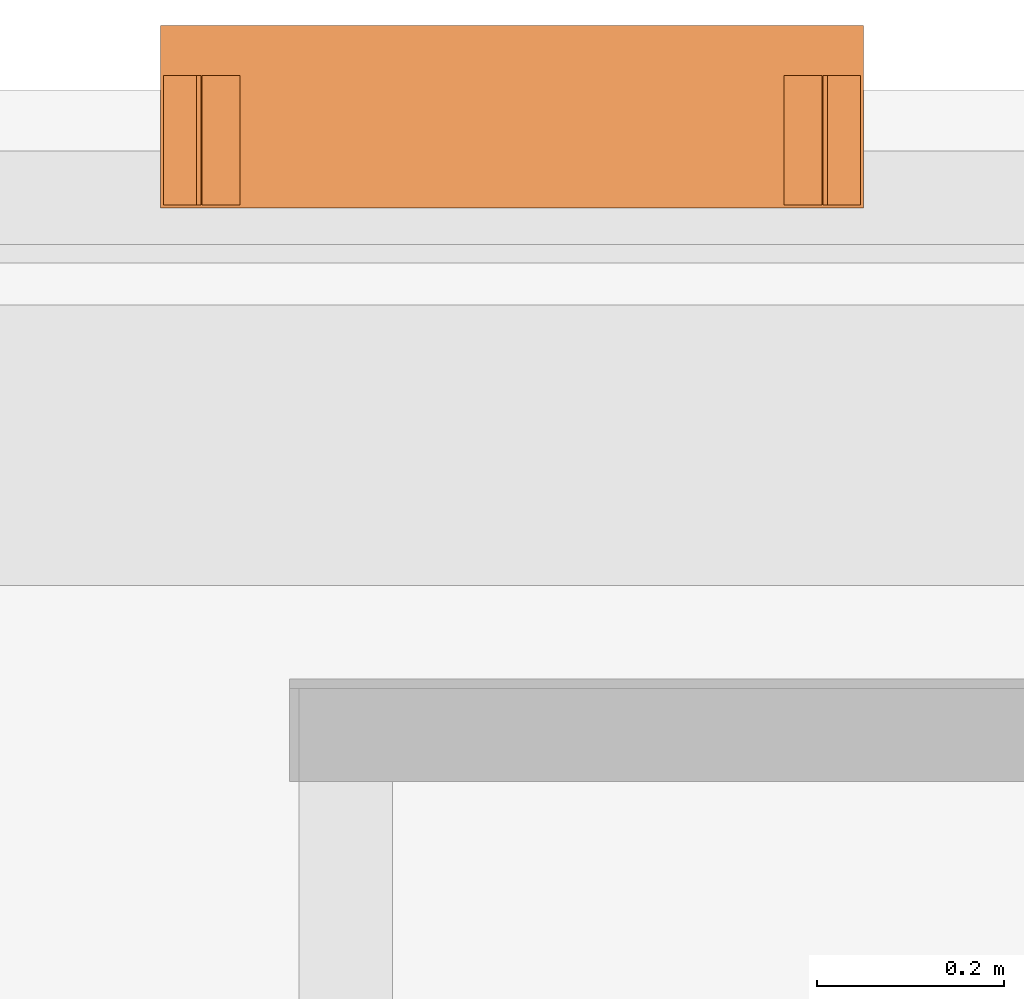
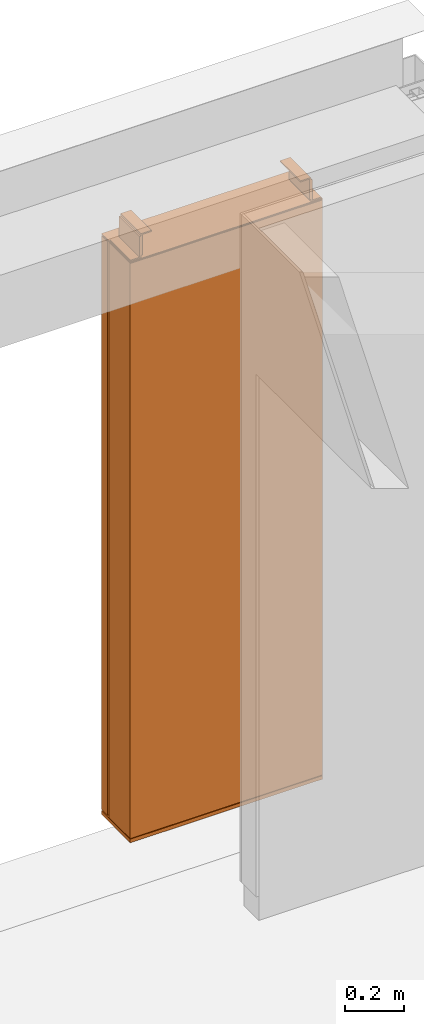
# One storey, part 37 of 37: 1 proxy.
"""IFC2X3 building model written with IfcOpenShell, lengths in millimetres."""

from ifc_helpers import new_model, entity, si_unit, converted_unit, derived_unit, direction, frame, origin, origin_with_axes, place, context, subcontext, project, spatial, faceted_brep, source, transform, mapped, material, type_object, element, save


model = new_model("IFC2X3")

# Units and contexts
model_context = context("Model", 3, precision=0.01, world=frame((0.0, 4.29681676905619e-09, 0.0)), true_north=direction((4.01073788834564e-13, 1.0)))
plan_context = context("Plan", 3, precision=0.01, world=frame((0.0, 4.29681676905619e-09, 0.0)), true_north=direction((4.01073788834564e-13, 1.0)))
body_context = subcontext(model_context, "Body", "Model", "MODEL_VIEW")
ifc_project = project(units=[converted_unit("PLANEANGLEUNIT", "DEGREE", entity("IfcPositiveLengthMeasure", 0.0174532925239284), si_unit("PLANEANGLEUNIT", "RADIAN"), dimensions=[0, 0, 0, 0, 0, 0, 0]), si_unit("AREAUNIT", "SQUARE_METRE"), si_unit("LENGTHUNIT", "METRE", prefix="MILLI"), si_unit("MASSUNIT", "GRAM", prefix="KILO"), si_unit("POWERUNIT", "WATT"), si_unit("PRESSUREUNIT", "PASCAL"), si_unit("FORCEUNIT", "NEWTON", prefix="KILO"), si_unit("ELECTRICVOLTAGEUNIT", "VOLT"), si_unit("ELECTRICCURRENTUNIT", "AMPERE"), si_unit("THERMODYNAMICTEMPERATUREUNIT", "DEGREE_CELSIUS"), si_unit("TIMEUNIT", "SECOND"), si_unit("VOLUMEUNIT", "CUBIC_METRE"), derived_unit("LINEARVELOCITYUNIT", [(si_unit("LENGTHUNIT", "METRE"), 1), (si_unit("TIMEUNIT", "SECOND"), -1)]), derived_unit("VOLUMETRICFLOWRATEUNIT", [(si_unit("VOLUMEUNIT", "CUBIC_METRE"), 1), (si_unit("TIMEUNIT", "SECOND"), -1)]), derived_unit("THERMALTRANSMITTANCEUNIT", [(si_unit("POWERUNIT", "WATT"), 1), (si_unit("THERMODYNAMICTEMPERATUREUNIT", "KELVIN"), -1), (si_unit("AREAUNIT", "SQUARE_METRE"), -1)]), derived_unit("SOUNDPRESSUREUNIT", [(si_unit("PRESSUREUNIT", "PASCAL"), 1)])], contexts=[model_context, plan_context])

# Site, building, storey
site_placement = place(None, origin_with_axes())
site = spatial("IfcSite", under=ifc_project, at=site_placement, Name="ENGM", CompositionType="ELEMENT")
building_placement = place(site_placement, origin_with_axes())
building = spatial("IfcBuilding", under=site, at=building_placement, Name="TS", CompositionType="ELEMENT")
storey_placement = place(building_placement, frame((0.0, 0.0, 210900.0), z_axis=(0.0, 0.0, 1.0), x_axis=(1.0, 0.0, 0.0)))
storey = spatial("IfcBuildingStorey", under=building, at=storey_placement, Name="Nivå F", CompositionType="ELEMENT", Elevation=210900.0)

# Proxy
ifc_material = material(Name="<Unnamed>")
building_element_proxy_type = type_object("IfcBuildingElementProxyType", Name="A275 - Pylon - venstrehengslet:Pylon med topp brakett", PredefinedType="NOTDEFINED", material=ifc_material)
shared_shape = source(origin(), body_context, "Body", "Brep", [
    faceted_brep([(373.0, 53.5000000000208, 2405.0), (337.634540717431, 53.5000000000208, 2405.0), (337.634540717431, 53.5000000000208, 2490.0), (332.634540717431, 53.5000000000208, 2490.0), (332.634540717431, 53.5000000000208, 2400.0), (373.0, 53.5000000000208, 2400.0), (373.0, 192.0, 2400.0), (373.0, 192.0, 2405.0), (332.634540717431, 192.0, 2400.0), (332.634540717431, 192.0, 2490.0), (337.634540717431, 192.0, 2490.0), (337.634540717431, 192.0, 2405.0)], [[[0, 1, 2, 3, 4, 5]], [[0, 5, 6, 7]], [[5, 4, 8, 6]], [[4, 3, 9, 8]], [[3, 2, 10, 9]], [[2, 1, 11, 10]], [[1, 0, 7, 11]], [[7, 6, 8, 9, 10, 11]]]),
    faceted_brep([(291.26908143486, 192.0, 2495.0), (291.26908143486, 192.0, 2500.0), (331.634540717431, 192.0, 2500.0), (331.634540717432, 192.0, 2410.0), (326.634540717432, 192.0, 2410.0), (326.634540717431, 192.0, 2495.0), (291.26908143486, 53.5000000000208, 2495.0), (291.26908143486, 53.5000000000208, 2500.0), (331.634540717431, 53.5000000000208, 2500.0), (331.634540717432, 53.5000000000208, 2410.0), (326.634540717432, 53.5000000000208, 2410.0), (326.634540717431, 53.5000000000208, 2495.0)], [[[0, 1, 2, 3, 4, 5]], [[6, 7, 1, 0]], [[7, 8, 2, 1]], [[8, 9, 3, 2]], [[9, 10, 4, 3]], [[10, 11, 5, 4]], [[11, 6, 0, 5]], [[6, 11, 10, 9, 8, 7]]]),
    faceted_brep([(-291.26908143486, 53.5000000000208, 2495.0), (-291.26908143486, 53.5000000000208, 2500.0), (-331.634540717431, 53.5000000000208, 2500.0), (-331.634540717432, 53.5000000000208, 2410.0), (-326.634540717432, 53.5000000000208, 2410.0), (-326.634540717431, 53.5000000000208, 2495.0), (-291.26908143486, 192.0, 2495.0), (-291.26908143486, 192.0, 2500.0), (-331.634540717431, 192.0, 2500.0), (-331.634540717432, 192.0, 2410.0), (-326.634540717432, 192.0, 2410.0), (-326.634540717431, 192.0, 2495.0)], [[[0, 1, 2, 3, 4, 5]], [[1, 0, 6, 7]], [[2, 1, 7, 8]], [[3, 2, 8, 9]], [[4, 3, 9, 10]], [[5, 4, 10, 11]], [[0, 5, 11, 6]], [[6, 11, 10, 9, 8, 7]]]),
    faceted_brep([(-373.0, 192.0, 2405.0), (-337.634540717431, 192.0, 2405.0), (-337.634540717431, 192.0, 2490.0), (-332.634540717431, 192.0, 2490.0), (-332.634540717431, 192.0, 2400.0), (-373.0, 192.0, 2400.0), (-373.0, 53.5000000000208, 2400.0), (-373.0, 53.5000000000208, 2405.0), (-332.634540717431, 53.5000000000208, 2400.0), (-332.634540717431, 53.5000000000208, 2490.0), (-337.634540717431, 53.5000000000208, 2490.0), (-337.634540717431, 53.5000000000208, 2405.0)], [[[0, 1, 2, 3, 4, 5]], [[6, 7, 0, 5]], [[8, 6, 5, 4]], [[9, 8, 4, 3]], [[10, 9, 3, 2]], [[11, 10, 2, 1]], [[7, 11, 1, 0]], [[7, 6, 8, 9, 10, 11]]]),
    faceted_brep([(376.0, 41.0, 2390.98999999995), (-376.0, 41.0, 2390.98999999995), (-376.0, 1.0, 2390.98999999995), (376.0, 1.0, 2390.98999999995), (373.0, 38.0, 2390.98999999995), (373.0, 4.0, 2390.98999999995), (-373.0, 4.0, 2390.98999999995), (-373.0, 38.0, 2390.98999999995), (376.0, 41.0, 180.0), (376.0, 1.0, 180.0), (-376.0, 1.0, 180.0), (-376.0, 41.0, 180.0), (373.0, 38.0, 180.0), (-373.0, 38.0, 180.0), (-373.0, 4.0, 180.0), (373.0, 4.0, 180.0), (-286.5, 1.0, 2310.98999999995), (286.500000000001, 1.0, 2310.98999999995), (286.500000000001, 1.0, 270.189999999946), (-286.5, 1.0, 270.189999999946), (286.500000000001, 3.0, 2310.98999999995), (-286.5, 3.0, 2310.98999999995), (-286.5, 3.0, 270.189999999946), (286.500000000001, 3.0, 270.189999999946)], [[[0, 1, 2, 3], [4, 5, 6, 7]], [[8, 9, 10, 11], [12, 13, 14, 15]], [[1, 0, 8, 11]], [[2, 1, 11, 10]], [[3, 2, 10, 9], [16, 17, 18, 19]], [[0, 3, 9, 8]], [[20, 21, 22, 23]], [[21, 20, 17, 16]], [[22, 21, 16, 19]], [[23, 22, 19, 18]], [[20, 23, 18, 17]], [[5, 4, 12, 15]], [[6, 5, 15, 14]], [[7, 6, 14, 13]], [[4, 7, 13, 12]]]),
    faceted_brep([(376.0, 41.0, 180.0), (-376.0, 41.0, 180.0), (-376.0, 0.0, 180.0), (376.0, 0.0, 180.0), (373.0, 38.0, 180.0), (373.0, 3.0, 180.0), (-373.0, 3.0, 180.0), (-373.0, 38.0, 180.0), (376.0, 41.0, 20.0), (376.0, 0.0, 20.0), (-376.0, 0.0, 20.0), (-376.0, 41.0, 20.0), (373.0, 38.0, 20.0), (-373.0, 38.0, 20.0), (-373.0, 3.0, 20.0), (373.0, 3.0, 20.0)], [[[0, 1, 2, 3], [4, 5, 6, 7]], [[8, 9, 10, 11], [12, 13, 14, 15]], [[1, 0, 8, 11]], [[2, 1, 11, 10]], [[3, 2, 10, 9]], [[0, 3, 9, 8]], [[5, 4, 12, 15]], [[6, 5, 15, 14]], [[7, 6, 14, 13]], [[4, 7, 13, 12]]]),
    faceted_brep([(376.0, 195.0, 2400.1), (-376.0, 195.0, 2400.1), (-376.0, 0.0, 2400.1), (376.0, 0.0, 2400.1), (376.0, 195.0, 2396.1), (376.0, 0.0, 2396.1), (-376.0, 0.0, 2396.1), (-376.0, 195.0, 2396.1)], [[[0, 1, 2, 3]], [[4, 5, 6, 7]], [[1, 0, 4, 7]], [[2, 1, 7, 6]], [[3, 2, 6, 5]], [[0, 3, 5, 4]]]),
    faceted_brep([(376.0, 195.0, 15.0), (-376.0, 195.0, 15.0), (-376.0, 0.0, 15.0), (376.0, 0.0, 15.0), (376.0, 195.0, 0.0), (376.0, 0.0, 0.0), (-376.0, 0.0, 0.0), (-376.0, 195.0, 0.0)], [[[0, 1, 2, 3]], [[4, 5, 6, 7]], [[1, 0, 4, 7]], [[2, 1, 7, 6]], [[3, 2, 6, 5]], [[0, 3, 5, 4]]]),
    faceted_brep([(360.0, 50.5000000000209, 2390.98999999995), (-360.0, 50.5000000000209, 2390.98999999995), (-360.0, 41.0, 2390.98999999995), (360.0, 41.0, 2390.98999999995), (360.0, 50.5000000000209, 20.0), (360.0, 41.0, 20.0), (-360.0, 41.0, 20.0), (-360.0, 50.5000000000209, 20.0)], [[[0, 1, 2, 3]], [[4, 5, 6, 7]], [[1, 0, 4, 7]], [[2, 1, 7, 6]], [[3, 2, 6, 5]], [[0, 3, 5, 4]]]),
    faceted_brep([(376.0, 195.0, 2393.8), (-376.0, 195.0, 2393.8), (-376.0, 50.5000000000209, 2393.8), (376.0, 50.5000000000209, 2393.8), (373.0, 192.0, 2393.8), (373.0, 53.5000000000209, 2393.8), (-373.0, 53.5000000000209, 2393.8), (-373.0, 192.0, 2393.8), (376.0, 195.0, 17.3), (376.0, 50.5000000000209, 17.3), (-376.0, 50.5000000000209, 17.3), (-376.0, 195.0, 17.3), (373.0, 192.0, 17.3), (-373.0, 192.0, 17.3), (-373.0, 53.5000000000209, 17.3), (373.0, 53.5000000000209, 17.3)], [[[0, 1, 2, 3], [4, 5, 6, 7]], [[8, 9, 10, 11], [12, 13, 14, 15]], [[1, 0, 8, 11]], [[2, 1, 11, 10]], [[3, 2, 10, 9]], [[0, 3, 9, 8]], [[5, 4, 12, 15]], [[6, 5, 15, 14]], [[7, 6, 14, 13]], [[4, 7, 13, 12]]]),
])
proxy_placement = place(storey_placement, frame((534025.000000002, 461984.01496679, 0.0), z_axis=(0.0, 0.0, 1.0), x_axis=(-1.0, 0.0, 0.0)))
element("IfcBuildingElementProxy", 1, at=proxy_placement, inside=storey, type_object=building_element_proxy_type, material=ifc_material, Name="A275 - Pylon - venstrehengslet:Pylon med topp brakett", ObjectType="A275 - Pylon - venstrehengslet:Pylon med topp brakett", context=body_context, shape_type="MappedRepresentation", body=[
    mapped(shared_shape, transform((0.0, 0.0, 0.0), scale=1.0)),
])

save(model, "model.ifc")
